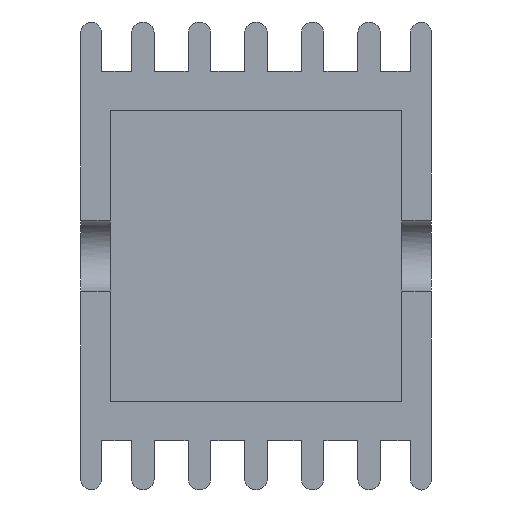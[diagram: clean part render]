
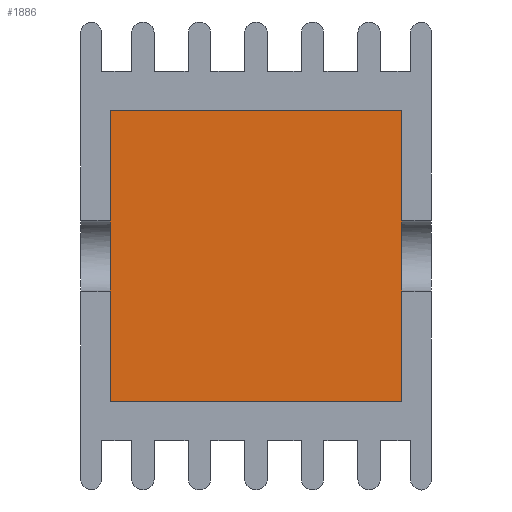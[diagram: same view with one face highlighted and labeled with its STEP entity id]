
A CAD part, left-side view. The second image highlights one B-rep face of the part: STEP entity #1886.
In plain terms, the highlighted planar face has unit normal (-1, 0, 0).
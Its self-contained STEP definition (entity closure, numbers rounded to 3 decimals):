
#106=FACE_OUTER_BOUND($,#205,.T.);
#205=EDGE_LOOP($,(#1191,#1192,#1193,#1194,#1195,#1196,#1197,#1198));
#305=LINE($,#2696,#518);
#306=LINE($,#2700,#519);
#307=LINE($,#2702,#520);
#308=LINE($,#2704,#521);
#309=LINE($,#2706,#522);
#310=LINE($,#2708,#523);
#311=LINE($,#2709,#524);
#312=LINE($,#2710,#525);
#518=VECTOR($,#2176,2.291);
#519=VECTOR($,#2179,22.4);
#520=VECTOR($,#2180,10.054);
#521=VECTOR($,#2181,2.291);
#522=VECTOR($,#2182,10.054);
#523=VECTOR($,#2183,22.4);
#524=VECTOR($,#2184,10.054);
#525=VECTOR($,#2185,10.054);
#735=VERTEX_POINT($,#2693);
#736=VERTEX_POINT($,#2694);
#737=VERTEX_POINT($,#2698);
#738=VERTEX_POINT($,#2699);
#739=VERTEX_POINT($,#2701);
#740=VERTEX_POINT($,#2703);
#741=VERTEX_POINT($,#2705);
#742=VERTEX_POINT($,#2707);
#916=EDGE_CURVE($,#735,#736,#305,.T.);
#917=EDGE_CURVE($,#737,#738,#306,.T.);
#918=EDGE_CURVE($,#739,#737,#307,.T.);
#919=EDGE_CURVE($,#739,#740,#308,.T.);
#920=EDGE_CURVE($,#741,#740,#309,.T.);
#921=EDGE_CURVE($,#742,#741,#310,.T.);
#922=EDGE_CURVE($,#735,#742,#311,.T.);
#923=EDGE_CURVE($,#738,#736,#312,.T.);
#1191=ORIENTED_EDGE($,*,*,#917,.F.);
#1192=ORIENTED_EDGE($,*,*,#918,.F.);
#1193=ORIENTED_EDGE($,*,*,#919,.T.);
#1194=ORIENTED_EDGE($,*,*,#920,.F.);
#1195=ORIENTED_EDGE($,*,*,#921,.F.);
#1196=ORIENTED_EDGE($,*,*,#922,.F.);
#1197=ORIENTED_EDGE($,*,*,#916,.T.);
#1198=ORIENTED_EDGE($,*,*,#923,.F.);
#1713=PLANE($,#1993);
#1886=ADVANCED_FACE($,(#106),#1713,.T.);
#1993=AXIS2_PLACEMENT_3D($,#2697,#2177,#2178);
#2176=DIRECTION($,(0.,0.,1.));
#2177=DIRECTION('center_axis',(-1.,0.,0.));
#2178=DIRECTION('ref_axis',(0.,0.,1.));
#2179=DIRECTION($,(0.,-1.,0.));
#2180=DIRECTION($,(0.,0.,1.));
#2181=DIRECTION($,(0.,0.,-1.));
#2182=DIRECTION($,(0.,0.,1.));
#2183=DIRECTION($,(0.,1.,0.));
#2184=DIRECTION($,(0.,0.,-1.));
#2185=DIRECTION($,(0.,0.,-1.));
#2693=CARTESIAN_POINT('',(-157.312,7.001,25.692));
#2694=CARTESIAN_POINT('',(-157.312,7.001,27.983));
#2696=CARTESIAN_POINT($,(-157.312,7.001,38.037));
#2697=CARTESIAN_POINT('Origin',(-157.312,18.201,26.837));
#2698=CARTESIAN_POINT('',(-157.312,29.401,38.037));
#2699=CARTESIAN_POINT('',(-157.312,7.001,38.037));
#2700=CARTESIAN_POINT($,(-157.312,12.601,38.037));
#2701=CARTESIAN_POINT('',(-157.312,29.401,27.983));
#2702=CARTESIAN_POINT($,(-157.312,29.401,32.437));
#2703=CARTESIAN_POINT('',(-157.312,29.401,25.692));
#2704=CARTESIAN_POINT($,(-157.312,29.401,15.637));
#2705=CARTESIAN_POINT('',(-157.312,29.401,15.637));
#2706=CARTESIAN_POINT($,(-157.312,29.401,32.437));
#2707=CARTESIAN_POINT('',(-157.312,7.001,15.637));
#2708=CARTESIAN_POINT($,(-157.312,23.801,15.637));
#2709=CARTESIAN_POINT($,(-157.312,7.001,21.237));
#2710=CARTESIAN_POINT($,(-157.312,7.001,21.237));
